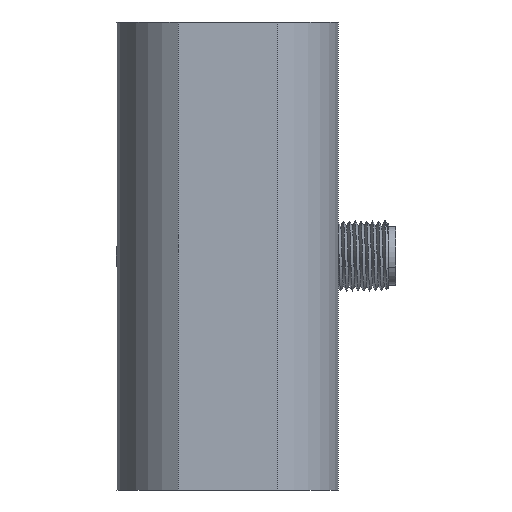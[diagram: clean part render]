
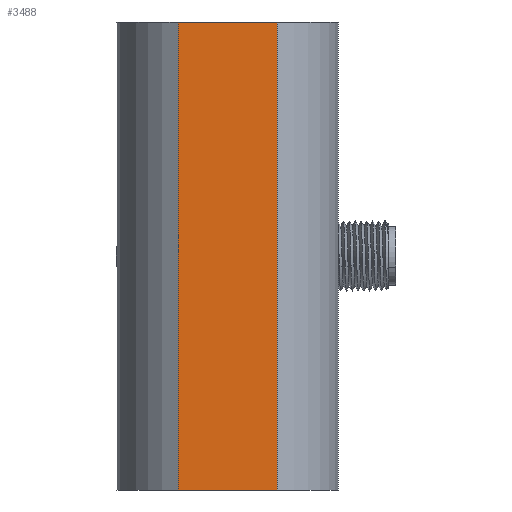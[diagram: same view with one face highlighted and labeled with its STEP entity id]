
A CAD part, front view. The second image highlights one B-rep face of the part: STEP entity #3488.
In plain terms, the highlighted planar face has unit normal (0, -1, 0).
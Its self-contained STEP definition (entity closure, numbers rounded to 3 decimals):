
#3488=ADVANCED_FACE('',(#4384),#3765,.F.);
#3765=PLANE('',#15102);
#4384=FACE_OUTER_BOUND('',#5223,.T.);
#5223=EDGE_LOOP('',(#9416,#9417,#9418,#9419));
#9416=ORIENTED_EDGE('',*,*,#12371,.F.);
#9417=ORIENTED_EDGE('',*,*,#12375,.F.);
#9418=ORIENTED_EDGE('',*,*,#12366,.T.);
#9419=ORIENTED_EDGE('',*,*,#12377,.F.);
#10607=VERTEX_POINT('',#31387);
#10609=VERTEX_POINT('',#31390);
#10612=VERTEX_POINT('',#31398);
#10614=VERTEX_POINT('',#31401);
#12366=EDGE_CURVE('',#10609,#10607,#13225,.T.);
#12371=EDGE_CURVE('',#10612,#10614,#13227,.T.);
#12375=EDGE_CURVE('',#10609,#10612,#13229,.T.);
#12377=EDGE_CURVE('',#10614,#10607,#13231,.T.);
#13225=LINE('',#31389,#14180);
#13227=LINE('',#31400,#14182);
#13229=LINE('',#31408,#14184);
#13231=LINE('',#31411,#14186);
#14180=VECTOR('',#17798,1.);
#14182=VECTOR('',#17808,1.);
#14184=VECTOR('',#17816,1.);
#14186=VECTOR('',#17820,1.);
#15102=AXIS2_PLACEMENT_3D('',#32790,#17890,#17891);
#17798=DIRECTION('',(1.,0.,0.));
#17808=DIRECTION('',(1.,0.,0.));
#17816=DIRECTION('',(0.,0.,1.));
#17820=DIRECTION('',(0.,0.,-1.));
#17890=DIRECTION('',(0.,1.,0.));
#17891=DIRECTION('',(0.,0.,-1.));
#31387=CARTESIAN_POINT('',(8.485,-18.5,103.));
#31389=CARTESIAN_POINT('',(0.,-18.5,103.));
#31390=CARTESIAN_POINT('',(-8.485,-18.5,103.));
#31398=CARTESIAN_POINT('',(-8.485,-18.5,183.));
#31400=CARTESIAN_POINT('',(0.,-18.5,183.));
#31401=CARTESIAN_POINT('',(8.485,-18.5,183.));
#31408=CARTESIAN_POINT('',(-8.485,-18.5,103.));
#31411=CARTESIAN_POINT('',(8.485,-18.5,199.5));
#32790=CARTESIAN_POINT('',(0.,-18.5,143.));
